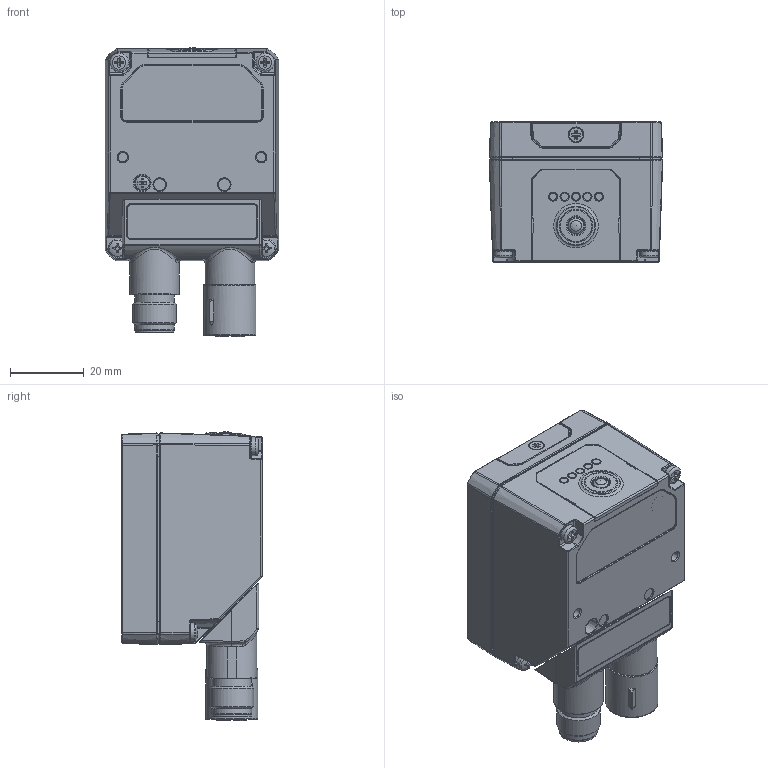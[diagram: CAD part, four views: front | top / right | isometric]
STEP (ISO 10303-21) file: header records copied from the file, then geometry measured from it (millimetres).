
FILE_DESCRIPTION(/* description */ (''),/* implementation_level */ '2;1');
FILE_NAME(/* name */ 'M220-DSD-891-STD-CONN-DIR.stp',/* time_stamp */ '2018-03-19T10:34:30+01:00',/* author */ (''),/* organization */ (''),/* preprocessor_version */ 'ST-DEVELOPER v16',/* originating_system */ 'SIEMENS PLM Software NX 10.0',/* authorisation */ '');
FILE_SCHEMA (('AP203_CONFIGURATION_CONTROLLED_3D_DESIGN_OF_MECHANICAL_PARTS_AND_ASSEMBLIES_MIM_LF { 1 0 10303 403 2 1 2}'));
Products named in the file (1): mgia1D54DB15tvg8
Bounding box: 47.09 x 38 x 78.44 mm (x, y, z)
Volume: 37765.6 mm3; surface area: 45600.1 mm2
Topology: 37 solids, 38 shells, 3059 faces, 7528 edges, 4629 vertices
Faces by surface type: plane 1035, cylinder 907, bspline 487, torus 294, cone 286, sphere 45, extrusion 5
Full cylindrical faces by diameter (mm): 0.6 x34, 1.6 x2, 1.8 x2, 2 x9, 2.05 x4, 2.38 x2, 2.4 x2, 2.5 x6, 2.8 x4, 2.95 x2, 3.2 x2, 3.439 x1, 3.5 x2, 3.6 x4, 3.7 x2, 4 x2, 5 x4, 5.9 x2, 8.75 x1, 8.8 x1, 9 x1, 9.1 x1, 9.5 x2, 9.9 x1, 10.5 x1, 10.7 x1, 10.8 x1, 11.15 x1, 11.85 x1, 12.2 x1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
Entity records: 101092 total; most frequent: CARTESIAN_POINT 32587, ORIENTED_EDGE 14225, DIRECTION 14097, EDGE_CURVE 7121, AXIS2_PLACEMENT_3D 5541, VERTEX_POINT 4505, EDGE_LOOP 3512, ADVANCED_FACE 3059
